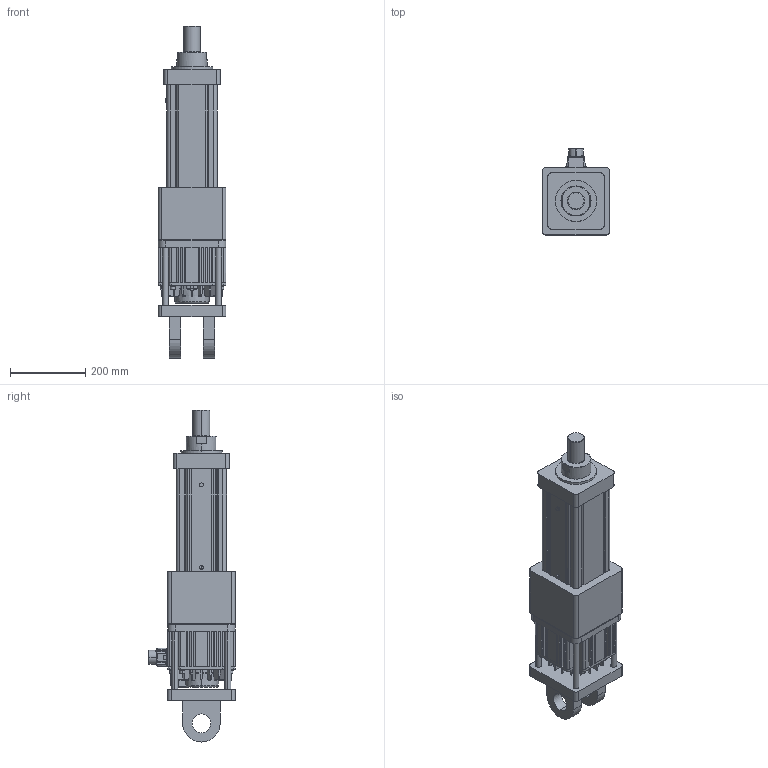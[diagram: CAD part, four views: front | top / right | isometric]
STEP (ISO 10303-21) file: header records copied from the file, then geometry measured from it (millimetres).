
FILE_DESCRIPTION (( 'STEP AP203' ), '1' );
FILE_NAME ('S5眻盄綴帣蝓假蚾.STEP', '2024-05-27T05:34:03', ( '' ), ( '' ), 'SwSTEP 2.0', 'SolidWorks 2018', '' );
FILE_SCHEMA (( 'CONFIG_CONTROL_DESIGN' ));
Length unit declared in the file: millimetre
Products named in the file (3): S5眻盄綴帣蝓假蚾; ECMA-EX1820RS-180框號系列機種-2KW中慣量系列; S5眻盄綴帣蝓
Assembly tree (2 placements, depth 2):
  S5眻盄綴帣蝓假蚾
    S5眻盄綴帣蝓
    ECMA-EX1820RS-180框號系列機種-2KW中慣量系列
Bounding box: 180 x 230.02 x 885 mm (x, y, z)
Volume: 12472383 mm3; surface area: 1065748.7 mm2
Topology: 3 solids, 15 shells, 936 faces, 2237 edges, 1413 vertices
Faces by surface type: plane 495, cylinder 336, cone 62, bspline 27, torus 16
Entity records: 29325 total; most frequent: CARTESIAN_POINT 7229, DIRECTION 4544, ORIENTED_EDGE 4470, EDGE_CURVE 2235, AXIS2_PLACEMENT_3D 1588, VERTEX_POINT 1413, LINE 1368, VECTOR 1368
